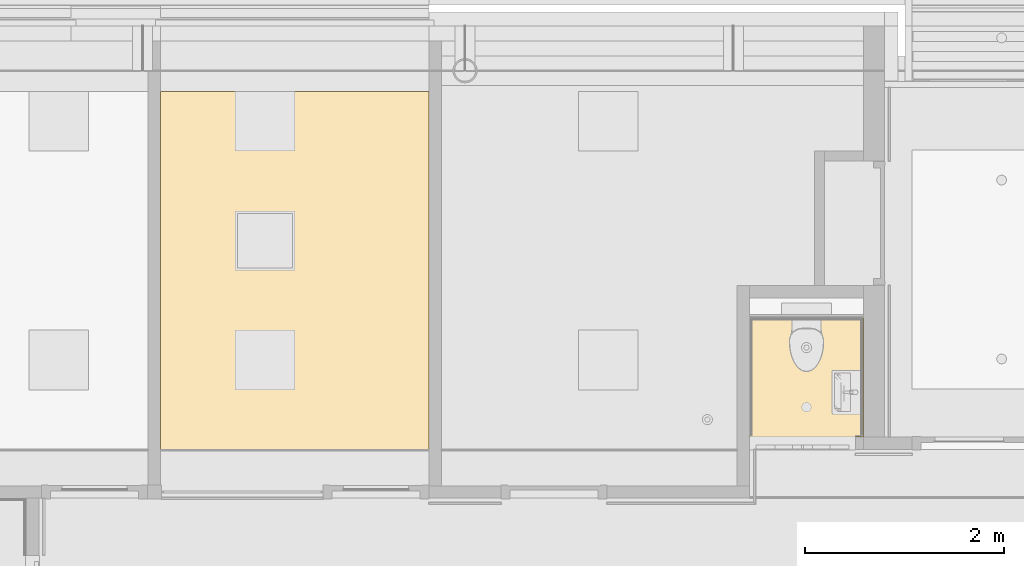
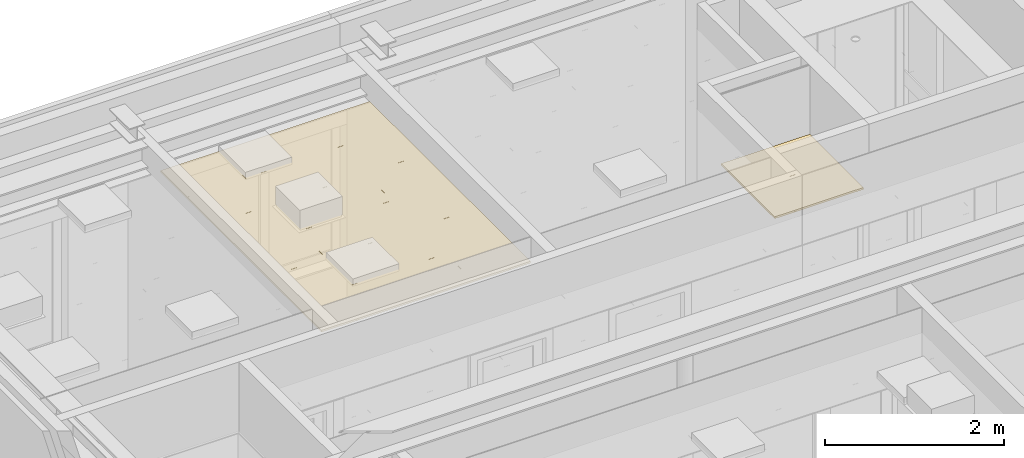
# One storey, part 160 of 347: 2 coverings.
"""IFC2X3 building model written with IfcOpenShell, lengths in millimetres."""

from ifc_helpers import new_model, entity, si_unit, converted_unit, derived_unit, money_unit, direction, frame, origin_with_axes, place, context, subcontext, project, spatial, faceted_brep, type_object, element, save


model = new_model("IFC2X3")

# Units and contexts
model_context = context("Model", 3, precision=0.01, world=origin_with_axes(), true_north=direction((0.0, 1.0)))
plan_context = context("Plan", 3, precision=0.01, world=origin_with_axes(), true_north=direction((0.0, 1.0)))
body_context = subcontext(model_context, "Body", "Model", "MODEL_VIEW")
ifc_project = project(units=[si_unit("LENGTHUNIT", "METRE", prefix="MILLI"), si_unit("AREAUNIT", "SQUARE_METRE"), si_unit("VOLUMEUNIT", "CUBIC_METRE"), converted_unit("PLANEANGLEUNIT", "DEGREE", entity("IfcPlaneAngleMeasure", 0.0174532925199), si_unit("PLANEANGLEUNIT", "RADIAN"), dimensions=[0, 0, 0, 0, 0, 0, 0]), money_unit("EUR"), converted_unit("TIMEUNIT", "Year", entity("IfcTimeMeasure", 31556926.0), si_unit("TIMEUNIT", "SECOND"), dimensions=[0, 0, 1, 0, 0, 0, 0]), si_unit("MASSUNIT", "GRAM", prefix="KILO"), si_unit("THERMODYNAMICTEMPERATUREUNIT", "DEGREE_CELSIUS"), si_unit("LUMINOUSINTENSITYUNIT", "LUMEN"), si_unit("ENERGYUNIT", "JOULE", prefix="MEGA"), derived_unit("THERMALCONDUCTANCEUNIT", [(si_unit("POWERUNIT", "WATT"), 1), (si_unit("LENGTHUNIT", "METRE"), -1), (si_unit("THERMODYNAMICTEMPERATUREUNIT", "KELVIN"), -1)]), derived_unit("SPECIFICHEATCAPACITYUNIT", [(si_unit("ENERGYUNIT", "JOULE"), 1), (si_unit("MASSUNIT", "GRAM", prefix="KILO"), -1), (si_unit("THERMODYNAMICTEMPERATUREUNIT", "KELVIN"), -1)]), derived_unit("MASSDENSITYUNIT", [(si_unit("MASSUNIT", "GRAM", prefix="KILO"), 1), (si_unit("VOLUMEUNIT", "CUBIC_METRE"), -1)])], contexts=[model_context, plan_context])

# Site, building, storey
site_placement = place(None, origin_with_axes())
site = spatial("IfcSite", under=ifc_project, at=site_placement, Name="Site", CompositionType="ELEMENT")
building_placement = place(site_placement, origin_with_axes())
building = spatial("IfcBuilding", under=site, at=building_placement, Name="Naam gebouw", CompositionType="ELEMENT")
storey_placement = place(building_placement, origin_with_axes())
storey = spatial("IfcBuildingStorey", under=building, at=storey_placement, Name="begane grond", CompositionType="ELEMENT", Elevation=0.0)

# Coverings
covering_type = type_object("IfcCoveringType", Name="Ceiling Editor INT_v2.01", PredefinedType="CEILING")
covering_1_placement = place(storey_placement, frame((14650.0, 15015.0, 2600.0), z_axis=(0.0, 0.0, 1.0), x_axis=(1.0, 0.0, 0.0)))
element("IfcCovering", 1, at=covering_1_placement, inside=storey, type_object=covering_type, Name="45 Plafondafwerkingen_77 garderobe", PredefinedType="CEILING", context=body_context, shape_type="Brep", body=[
    faceted_brep([(1145.0, 300.0, 20.0), (1145.0, 599.9, 20.0), (0.1, 599.9, 20.0), (0.1, 0.0999999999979, 20.0), (1145.0, 0.0999999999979, 20.0), (1145.0, 300.0, 0.0), (1145.0, 599.9, 0.0), (0.1, 599.9, 0.0), (0.1, 0.0999999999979, 0.0), (1145.0, 0.0999999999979, 0.0)], [[[0, 1, 2, 3, 4]], [[1, 0, 5, 6]], [[1, 6, 7, 2]], [[2, 7, 8, 3]], [[9, 4, 3, 8]], [[0, 4, 9, 5]], [[5, 9, 8, 7, 6]]]),
    faceted_brep([(1145.0, 900.0, 20.0), (1145.0, 1199.9, 20.0), (0.1, 1199.9, 20.0), (0.1, 600.1, 20.0), (1145.0, 600.1, 20.0), (1145.0, 900.0, 0.0), (1145.0, 1199.9, 0.0), (0.1, 1199.9, 0.0), (0.1, 600.1, 0.0), (1145.0, 600.1, 0.0)], [[[0, 1, 2, 3, 4]], [[1, 0, 5, 6]], [[1, 6, 7, 2]], [[2, 7, 8, 3]], [[9, 4, 3, 8]], [[0, 4, 9, 5]], [[5, 9, 8, 7, 6]]]),
    faceted_brep([(1145.0, 12.5, -5.0), (1145.0, 0.0, -5.0), (858.75, 0.0, -5.0), (572.5, 0.0, -5.0), (286.25, 0.0, -5.0), (0.0, 0.0, -5.0), (0.0, 300.0, -5.0), (0.0, 600.0, -5.0), (0.0, 900.0, -5.0), (0.0, 1200.0, -5.0), (286.25, 1200.0, -5.0), (572.5, 1200.0, -5.0), (858.75, 1200.0, -5.0), (1145.0, 1200.0, -5.0), (1145.0, 1187.5, -5.0), (1145.0, 612.5, -5.0), (1145.0, 600.0, -5.0), (1145.0, 587.5, -5.0), (1120.0, 1175.0, -5.0), (25.0, 1175.0, -5.0), (25.0, 612.5, -5.0), (1120.0, 612.5, -5.0), (1120.0, 25.0, -5.0), (1120.0, 587.5, -5.0), (25.0, 587.5, -5.0), (25.0, 25.0, -5.0), (1145.0, 600.0, 0.0), (1145.0, 587.5, 0.0), (1145.0, 12.5, 0.0), (1145.0, 0.0, 0.0), (858.75, 0.0, 0.0), (572.5, 0.0, 0.0), (286.25, 0.0, 0.0), (0.0, 0.0, 0.0), (0.0, 300.0, 0.0), (0.0, 600.0, 0.0), (0.0, 900.0, 0.0), (0.0, 1200.0, 0.0), (286.25, 1200.0, 0.0), (572.5, 1200.0, 0.0), (858.75, 1200.0, 0.0), (1145.0, 1200.0, 0.0), (1145.0, 1187.5, 0.0), (1145.0, 612.5, 0.0), (1120.0, 1175.0, 0.0), (25.0, 1175.0, 0.0), (25.0, 612.5, 0.0), (1120.0, 612.5, 0.0), (1120.0, 25.0, 0.0), (1120.0, 587.5, 0.0), (25.0, 587.5, 0.0), (25.0, 25.0, 0.0)], [[[0, 1, 2, 3, 4, 5, 6, 7, 8, 9, 10, 11, 12, 13, 14, 15, 16, 17], [18, 19, 20, 21], [22, 23, 24, 25]], [[0, 17, 16, 26, 27, 28, 29, 1]], [[2, 1, 29, 30]], [[3, 2, 30, 31]], [[4, 3, 31, 32]], [[4, 32, 33, 5]], [[6, 5, 33, 34]], [[7, 6, 34, 35]], [[8, 7, 35, 36]], [[9, 8, 36, 37]], [[10, 9, 37, 38]], [[11, 10, 38, 39]], [[12, 11, 39, 40]], [[13, 12, 40, 41]], [[15, 14, 13, 41, 42, 43, 26, 16]], [[18, 44, 45, 19]], [[19, 45, 46, 20]], [[47, 21, 20, 46]], [[47, 44, 18, 21]], [[22, 48, 49, 23]], [[23, 49, 50, 24]], [[24, 50, 51, 25]], [[51, 48, 22, 25]], [[27, 26, 43, 42, 41, 40, 39, 38, 37, 36, 35, 34, 33, 32, 31, 30, 29, 28], [47, 46, 45, 44], [51, 50, 49, 48]]]),
])
covering_2_placement = place(storey_placement, frame((8725.0, 14890.000144, 3200.0), z_axis=(0.0, 0.0, 1.0), x_axis=(1.0, 0.0, 0.0)))
element("IfcCovering", 2, at=covering_2_placement, inside=storey, type_object=covering_type, Name="45 Plafondafwerkingen_77 garderobe", PredefinedType="CEILING", context=body_context, shape_type="Brep", body=[
    faceted_brep([(0.0, 599.9, 0.0), (0.0, 599.9, 20.0), (749.9, 599.9, 20.0), (749.9, 599.9, 0.0), (0.0, 0.100000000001, 0.0), (0.0, 0.100000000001, 20.0), (749.9, 0.100000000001, 20.0), (749.9, 0.100000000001, 0.0)], [[[0, 1, 2, 3]], [[1, 0, 4, 5]], [[1, 5, 6, 2]], [[6, 7, 3, 2]], [[4, 0, 3, 7]], [[5, 4, 7, 6]]]),
    faceted_brep([(0.0, 1199.9, 0.0), (0.0, 1199.9, 20.0), (749.9, 1199.9, 20.0), (749.9, 1199.9, 0.0), (0.0, 900.0, 0.0), (0.0, 900.0, 20.0), (0.0, 600.1, 20.0), (749.9, 600.1, 20.0), (749.9, 600.1, 0.0), (0.0, 600.1, 0.0)], [[[0, 1, 2, 3]], [[1, 0, 4, 5]], [[5, 6, 7, 2, 1]], [[7, 8, 3, 2]], [[4, 0, 3, 8, 9]], [[6, 5, 4, 9]], [[6, 9, 8, 7]]]),
    faceted_brep([(0.0, 1799.9, 0.0), (0.0, 1799.9, 20.0), (749.9, 1799.9, 20.0), (749.9, 1799.9, 0.0), (0.0, 1200.1, 0.0), (0.0, 1200.1, 20.0), (749.9, 1200.1, 20.0), (749.9, 1200.1, 0.0)], [[[0, 1, 2, 3]], [[1, 0, 4, 5]], [[1, 5, 6, 2]], [[6, 7, 3, 2]], [[4, 0, 3, 7]], [[5, 4, 7, 6]]]),
    faceted_brep([(0.0, 2399.9, 0.0), (0.0, 2399.9, 20.0), (749.9, 2399.9, 20.0), (749.9, 2399.9, 0.0), (0.0, 1800.1, 0.0), (0.0, 1800.1, 20.0), (749.9, 1800.1, 20.0), (749.9, 1800.1, 0.0)], [[[0, 1, 2, 3]], [[1, 0, 4, 5]], [[1, 5, 6, 2]], [[6, 7, 3, 2]], [[4, 0, 3, 7]], [[5, 4, 7, 6]]]),
    faceted_brep([(0.0, 2999.9, 0.0), (0.0, 2999.9, 20.0), (749.9, 2999.9, 20.0), (749.9, 2999.9, 0.0), (0.0, 2700.0, 0.0), (0.0, 2700.0, 20.0), (0.0, 2400.1, 20.0), (749.9, 2400.1, 20.0), (749.9, 2400.1, 0.0), (0.0, 2400.1, 0.0)], [[[0, 1, 2, 3]], [[1, 0, 4, 5]], [[5, 6, 7, 2, 1]], [[7, 8, 3, 2]], [[4, 0, 3, 8, 9]], [[6, 5, 4, 9]], [[6, 9, 8, 7]]]),
    faceted_brep([(0.0, 3599.9, 0.0), (0.0, 3599.9, 20.0), (749.9, 3599.9, 20.0), (749.9, 3599.9, 0.0), (0.0, 3000.1, 0.0), (0.0, 3000.1, 20.0), (749.9, 3000.1, 20.0), (749.9, 3000.1, 0.0)], [[[0, 1, 2, 3]], [[1, 0, 4, 5]], [[1, 5, 6, 2]], [[6, 7, 3, 2]], [[4, 0, 3, 7]], [[5, 4, 7, 6]]]),
    faceted_brep([(1949.9, 0.100000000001, 20.0), (1949.9, 0.100000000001, 0.0), (1949.9, 599.9, 0.0), (1949.9, 599.9, 20.0), (750.1, 0.100000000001, 20.0), (750.1, 0.100000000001, 0.0), (750.1, 599.9, 0.0), (750.1, 599.9, 20.0)], [[[0, 1, 2, 3]], [[4, 5, 1, 0]], [[2, 1, 5, 6]], [[3, 2, 6, 7]], [[4, 0, 3, 7]], [[7, 6, 5, 4]]]),
    faceted_brep([(1949.9, 600.1, 20.0), (1949.9, 600.1, 0.0), (1949.9, 1199.9, 0.0), (1949.9, 1199.9, 20.0), (750.1, 600.1, 20.0), (750.1, 600.1, 0.0), (750.1, 1199.9, 0.0), (750.1, 1199.9, 20.0)], [[[0, 1, 2, 3]], [[4, 5, 1, 0]], [[2, 1, 5, 6]], [[3, 2, 6, 7]], [[4, 0, 3, 7]], [[7, 6, 5, 4]]]),
    faceted_brep([(1949.9, 1200.1, 20.0), (1949.9, 1200.1, 0.0), (1949.9, 1799.9, 0.0), (1949.9, 1799.9, 20.0), (750.1, 1200.1, 20.0), (750.1, 1200.1, 0.0), (750.1, 1799.9, 0.0), (750.1, 1799.9, 20.0)], [[[0, 1, 2, 3]], [[4, 5, 1, 0]], [[2, 1, 5, 6]], [[3, 2, 6, 7]], [[4, 0, 3, 7]], [[7, 6, 5, 4]]]),
    faceted_brep([(1949.9, 1800.1, 20.0), (1949.9, 1800.1, 0.0), (1949.9, 2399.9, 0.0), (1949.9, 2399.9, 20.0), (750.1, 1800.1, 20.0), (750.1, 1800.1, 0.0), (750.1, 2399.9, 0.0), (750.1, 2399.9, 20.0)], [[[0, 1, 2, 3]], [[4, 5, 1, 0]], [[2, 1, 5, 6]], [[3, 2, 6, 7]], [[4, 0, 3, 7]], [[7, 6, 5, 4]]]),
    faceted_brep([(1949.9, 2400.1, 20.0), (1949.9, 2400.1, 0.0), (1949.9, 2999.9, 0.0), (1949.9, 2999.9, 20.0), (750.1, 2400.1, 20.0), (750.1, 2400.1, 0.0), (750.1, 2999.9, 0.0), (750.1, 2999.9, 20.0)], [[[0, 1, 2, 3]], [[4, 5, 1, 0]], [[2, 1, 5, 6]], [[3, 2, 6, 7]], [[4, 0, 3, 7]], [[7, 6, 5, 4]]]),
    faceted_brep([(1949.9, 3000.1, 20.0), (1949.9, 3000.1, 0.0), (1949.9, 3599.9, 0.0), (1949.9, 3599.9, 20.0), (750.1, 3000.1, 20.0), (750.1, 3000.1, 0.0), (750.1, 3599.9, 0.0), (750.1, 3599.9, 20.0)], [[[0, 1, 2, 3]], [[4, 5, 1, 0]], [[2, 1, 5, 6]], [[3, 2, 6, 7]], [[4, 0, 3, 7]], [[7, 6, 5, 4]]]),
    faceted_brep([(2700.0, 0.100000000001, 20.0), (2700.0, 599.9, 20.0), (1950.1, 599.9, 20.0), (1950.1, 0.100000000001, 20.0), (2700.0, 0.100000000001, 0.0), (2700.0, 599.9, 0.0), (1950.1, 599.9, 0.0), (1950.1, 0.100000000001, 0.0)], [[[0, 1, 2, 3]], [[1, 0, 4, 5]], [[1, 5, 6, 2]], [[2, 6, 7, 3]], [[4, 0, 3, 7]], [[5, 4, 7, 6]]]),
    faceted_brep([(2700.0, 900.0, 20.0), (2700.0, 1199.9, 20.0), (1950.1, 1199.9, 20.0), (1950.1, 600.1, 20.0), (2700.0, 600.1, 20.0), (2700.0, 900.0, 0.0), (2700.0, 1199.9, 0.0), (1950.1, 1199.9, 0.0), (1950.1, 600.1, 0.0), (2700.0, 600.1, 0.0)], [[[0, 1, 2, 3, 4]], [[1, 0, 5, 6]], [[1, 6, 7, 2]], [[2, 7, 8, 3]], [[9, 4, 3, 8]], [[0, 4, 9, 5]], [[5, 9, 8, 7, 6]]]),
    faceted_brep([(2700.0, 1200.1, 20.0), (2700.0, 1799.9, 20.0), (1950.1, 1799.9, 20.0), (1950.1, 1200.1, 20.0), (2700.0, 1200.1, 0.0), (2700.0, 1799.9, 0.0), (1950.1, 1799.9, 0.0), (1950.1, 1200.1, 0.0)], [[[0, 1, 2, 3]], [[1, 0, 4, 5]], [[1, 5, 6, 2]], [[2, 6, 7, 3]], [[4, 0, 3, 7]], [[5, 4, 7, 6]]]),
    faceted_brep([(2700.0, 1800.1, 20.0), (2700.0, 2399.9, 20.0), (1950.1, 2399.9, 20.0), (1950.1, 1800.1, 20.0), (2700.0, 1800.1, 0.0), (2700.0, 2399.9, 0.0), (1950.1, 2399.9, 0.0), (1950.1, 1800.1, 0.0)], [[[0, 1, 2, 3]], [[1, 0, 4, 5]], [[1, 5, 6, 2]], [[2, 6, 7, 3]], [[4, 0, 3, 7]], [[5, 4, 7, 6]]]),
    faceted_brep([(2700.0, 2700.0, 20.0), (2700.0, 2999.9, 20.0), (1950.1, 2999.9, 20.0), (1950.1, 2400.1, 20.0), (2700.0, 2400.1, 20.0), (2700.0, 2700.0, 0.0), (2700.0, 2999.9, 0.0), (1950.1, 2999.9, 0.0), (1950.1, 2400.1, 0.0), (2700.0, 2400.1, 0.0)], [[[0, 1, 2, 3, 4]], [[1, 0, 5, 6]], [[1, 6, 7, 2]], [[2, 7, 8, 3]], [[9, 4, 3, 8]], [[0, 4, 9, 5]], [[5, 9, 8, 7, 6]]]),
    faceted_brep([(2700.0, 3000.1, 20.0), (2700.0, 3599.9, 20.0), (1950.1, 3599.9, 20.0), (1950.1, 3000.1, 20.0), (2700.0, 3000.1, 0.0), (2700.0, 3599.9, 0.0), (1950.1, 3599.9, 0.0), (1950.1, 3000.1, 0.0)], [[[0, 1, 2, 3]], [[1, 0, 4, 5]], [[1, 5, 6, 2]], [[2, 6, 7, 3]], [[4, 0, 3, 7]], [[5, 4, 7, 6]]]),
    faceted_brep([(737.5, 25.0, -5.0), (737.5, 25.0, 0.0), (737.5, 587.5, 0.0), (737.5, 587.5, -5.0), (25.0, 25.0, -5.0), (25.0, 25.0, 0.0), (2700.0, 1187.5, 0.0), (2700.0, 1212.5, 0.0), (2700.0, 1787.5, 0.0), (2700.0, 1800.0, 0.0), (2700.0, 1812.5, 0.0), (2700.0, 2387.5, 0.0), (2700.0, 2412.5, 0.0), (2700.0, 2987.5, 0.0), (2700.0, 3012.5, 0.0), (2700.0, 3587.5, 0.0), (2700.0, 3600.0, 0.0), (2025.0, 3600.0, 0.0), (1350.0, 3600.0, 0.0), (675.0, 3600.0, 0.0), (0.0, 3600.0, 0.0), (0.0, 3587.5, 0.0), (0.0, 3012.5, 0.0), (0.0, 2987.5, 0.0), (0.0, 2412.5, 0.0), (0.0, 2387.5, 0.0), (0.0, 1812.5, 0.0), (0.0, 1800.0, 0.0), (0.0, 1787.5, 0.0), (0.0, 1212.5, 0.0), (0.0, 1187.5, 0.0), (0.0, 612.5, 0.0), (0.0, 587.5, 0.0), (0.0, 12.5, 0.0), (0.0, 0.0, 0.0), (675.0, 0.0, 0.0), (1350.0, 0.0, 0.0), (2025.0, 0.0, 0.0), (2700.0, 0.0, 0.0), (2700.0, 12.5, 0.0), (2700.0, 587.5, 0.0), (2700.0, 612.5, 0.0), (762.5, 2987.5, 0.0), (1937.5, 2987.5, 0.0), (1937.5, 2412.5, 0.0), (762.5, 2412.5, 0.0), (762.5, 25.0, 0.0), (762.5, 587.5, 0.0), (1937.5, 587.5, 0.0), (1937.5, 25.0, 0.0), (762.5, 1187.5, 0.0), (1937.5, 1187.5, 0.0), (1937.5, 612.5, 0.0), (762.5, 612.5, 0.0), (762.5, 1787.5, 0.0), (1937.5, 1787.5, 0.0), (1937.5, 1212.5, 0.0), (762.5, 1212.5, 0.0), (762.5, 2387.5, 0.0), (1937.5, 2387.5, 0.0), (1937.5, 1812.5, 0.0), (762.5, 1812.5, 0.0), (1937.5, 3575.0, 0.0), (1937.5, 3012.5, 0.0), (762.5, 3012.5, 0.0), (762.5, 3575.0, 0.0), (25.0, 587.5, 0.0), (25.0, 1187.5, 0.0), (737.5, 1187.5, 0.0), (737.5, 612.5, 0.0), (25.0, 612.5, 0.0), (25.0, 1787.5, 0.0), (737.5, 1787.5, 0.0), (737.5, 1212.5, 0.0), (25.0, 1212.5, 0.0), (25.0, 2387.5, 0.0), (737.5, 2387.5, 0.0), (737.5, 1812.5, 0.0), (25.0, 1812.5, 0.0), (737.5, 3575.0, 0.0), (737.5, 3012.5, 0.0), (25.0, 3012.5, 0.0), (25.0, 3575.0, 0.0), (25.0, 2987.5, 0.0), (737.5, 2987.5, 0.0), (737.5, 2412.5, 0.0), (25.0, 2412.5, 0.0), (2675.0, 3575.0, 0.0), (2675.0, 3012.5, 0.0), (1962.5, 3012.5, 0.0), (1962.5, 3575.0, 0.0), (2675.0, 2387.5, 0.0), (2675.0, 1812.5, 0.0), (1962.5, 1812.5, 0.0), (1962.5, 2387.5, 0.0), (2675.0, 2412.5, 0.0), (1962.5, 2412.5, 0.0), (1962.5, 2987.5, 0.0), (2675.0, 2987.5, 0.0), (2675.0, 1787.5, 0.0), (2675.0, 1212.5, 0.0), (1962.5, 1212.5, 0.0), (1962.5, 1787.5, 0.0), (1962.5, 25.0, 0.0), (1962.5, 587.5, 0.0), (2675.0, 587.5, 0.0), (2675.0, 25.0, 0.0), (2675.0, 612.5, 0.0), (1962.5, 612.5, 0.0), (1962.5, 1187.5, 0.0), (2675.0, 1187.5, 0.0), (25.0, 587.5, -5.0), (2700.0, 612.5, -5.0), (2700.0, 587.5, -5.0), (2700.0, 12.5, -5.0), (2700.0, 0.0, -5.0), (2025.0, 0.0, -5.0), (1350.0, 0.0, -5.0), (675.0, 0.0, -5.0), (0.0, 0.0, -5.0), (0.0, 12.5, -5.0), (0.0, 587.5, -5.0), (0.0, 612.5, -5.0), (0.0, 1187.5, -5.0), (0.0, 1212.5, -5.0), (0.0, 1787.5, -5.0), (0.0, 1800.0, -5.0), (0.0, 1812.5, -5.0), (0.0, 2387.5, -5.0), (0.0, 2412.5, -5.0), (0.0, 2987.5, -5.0), (0.0, 3012.5, -5.0), (0.0, 3587.5, -5.0), (0.0, 3600.0, -5.0), (675.0, 3600.0, -5.0), (1350.0, 3600.0, -5.0), (2025.0, 3600.0, -5.0), (2700.0, 3600.0, -5.0), (2700.0, 3587.5, -5.0), (2700.0, 3012.5, -5.0), (2700.0, 2987.5, -5.0), (2700.0, 2412.5, -5.0), (2700.0, 2387.5, -5.0), (2700.0, 1812.5, -5.0), (2700.0, 1800.0, -5.0), (2700.0, 1787.5, -5.0), (2700.0, 1212.5, -5.0), (2700.0, 1187.5, -5.0), (1937.5, 2412.5, -5.0), (1937.5, 2987.5, -5.0), (762.5, 2987.5, -5.0), (762.5, 2412.5, -5.0), (1937.5, 25.0, -5.0), (1937.5, 587.5, -5.0), (762.5, 587.5, -5.0), (762.5, 25.0, -5.0), (1937.5, 612.5, -5.0), (1937.5, 1187.5, -5.0), (762.5, 1187.5, -5.0), (762.5, 612.5, -5.0), (1937.5, 1212.5, -5.0), (1937.5, 1787.5, -5.0), (762.5, 1787.5, -5.0), (762.5, 1212.5, -5.0), (1937.5, 1812.5, -5.0), (1937.5, 2387.5, -5.0), (762.5, 2387.5, -5.0), (762.5, 1812.5, -5.0), (762.5, 3575.0, -5.0), (762.5, 3012.5, -5.0), (1937.5, 3012.5, -5.0), (1937.5, 3575.0, -5.0), (25.0, 1187.5, -5.0), (25.0, 612.5, -5.0), (737.5, 612.5, -5.0), (737.5, 1187.5, -5.0), (25.0, 1787.5, -5.0), (25.0, 1212.5, -5.0), (737.5, 1212.5, -5.0), (737.5, 1787.5, -5.0), (25.0, 2387.5, -5.0), (25.0, 1812.5, -5.0), (737.5, 1812.5, -5.0), (737.5, 2387.5, -5.0), (25.0, 3575.0, -5.0), (25.0, 3012.5, -5.0), (737.5, 3012.5, -5.0), (737.5, 3575.0, -5.0), (25.0, 2987.5, -5.0), (25.0, 2412.5, -5.0), (737.5, 2412.5, -5.0), (737.5, 2987.5, -5.0), (2675.0, 3575.0, -5.0), (1962.5, 3575.0, -5.0), (1962.5, 3012.5, -5.0), (2675.0, 3012.5, -5.0), (2675.0, 2387.5, -5.0), (1962.5, 2387.5, -5.0), (1962.5, 1812.5, -5.0), (2675.0, 1812.5, -5.0), (2675.0, 2987.5, -5.0), (1962.5, 2987.5, -5.0), (1962.5, 2412.5, -5.0), (2675.0, 2412.5, -5.0), (2675.0, 1787.5, -5.0), (1962.5, 1787.5, -5.0), (1962.5, 1212.5, -5.0), (2675.0, 1212.5, -5.0), (2675.0, 25.0, -5.0), (2675.0, 587.5, -5.0), (1962.5, 587.5, -5.0), (1962.5, 25.0, -5.0), (2675.0, 1187.5, -5.0), (1962.5, 1187.5, -5.0), (1962.5, 612.5, -5.0), (2675.0, 612.5, -5.0)], [[[0, 1, 2, 3]], [[1, 0, 4, 5]], [[6, 7, 8, 9, 10, 11, 12, 13, 14, 15, 16, 17, 18, 19, 20, 21, 22, 23, 24, 25, 26, 27, 28, 29, 30, 31, 32, 33, 34, 35, 36, 37, 38, 39, 40, 41], [42, 43, 44, 45], [46, 47, 48, 49], [50, 51, 52, 53], [54, 55, 56, 57], [58, 59, 60, 61], [62, 63, 64, 65], [1, 5, 66, 2], [67, 68, 69, 70], [71, 72, 73, 74], [75, 76, 77, 78], [79, 80, 81, 82], [83, 84, 85, 86], [87, 88, 89, 90], [91, 92, 93, 94], [95, 96, 97, 98], [99, 100, 101, 102], [103, 104, 105, 106], [107, 108, 109, 110]], [[66, 111, 3, 2]], [[112, 113, 114, 115, 116, 117, 118, 119, 120, 121, 122, 123, 124, 125, 126, 127, 128, 129, 130, 131, 132, 133, 134, 135, 136, 137, 138, 139, 140, 141, 142, 143, 144, 145, 146, 147], [148, 149, 150, 151], [152, 153, 154, 155], [156, 157, 158, 159], [160, 161, 162, 163], [164, 165, 166, 167], [168, 169, 170, 171], [0, 3, 111, 4], [172, 173, 174, 175], [176, 177, 178, 179], [180, 181, 182, 183], [184, 185, 186, 187], [188, 189, 190, 191], [192, 193, 194, 195], [196, 197, 198, 199], [200, 201, 202, 203], [204, 205, 206, 207], [208, 209, 210, 211], [212, 213, 214, 215]], [[111, 66, 5, 4]], [[112, 147, 146, 145, 144, 9, 8, 7, 6, 41, 40, 39, 38, 115, 114, 113]], [[141, 140, 139, 138, 137, 16, 15, 14, 13, 12, 11, 10, 9, 144, 143, 142]], [[137, 136, 17, 16]], [[136, 135, 18, 17]], [[135, 134, 19, 18]], [[134, 133, 20, 19]], [[23, 22, 21, 20, 133, 132, 131, 130, 129, 128, 127, 126, 27, 26, 25, 24]], [[28, 27, 126, 125, 124, 123, 122, 121, 120, 119, 34, 33, 32, 31, 30, 29]], [[119, 118, 35, 34]], [[117, 36, 35, 118]], [[116, 37, 36, 117]], [[116, 115, 38, 37]], [[150, 149, 43, 42]], [[44, 43, 149, 148]], [[45, 44, 148, 151]], [[151, 150, 42, 45]], [[46, 155, 154, 47]], [[154, 153, 48, 47]], [[152, 49, 48, 153]], [[46, 49, 152, 155]], [[158, 157, 51, 50]], [[52, 51, 157, 156]], [[53, 52, 156, 159]], [[159, 158, 50, 53]], [[162, 161, 55, 54]], [[56, 55, 161, 160]], [[57, 56, 160, 163]], [[163, 162, 54, 57]], [[166, 165, 59, 58]], [[60, 59, 165, 164]], [[61, 60, 164, 167]], [[167, 166, 58, 61]], [[62, 171, 170, 63]], [[64, 63, 170, 169]], [[168, 65, 64, 169]], [[171, 62, 65, 168]], [[67, 172, 175, 68]], [[69, 68, 175, 174]], [[173, 70, 69, 174]], [[172, 67, 70, 173]], [[71, 176, 179, 72]], [[73, 72, 179, 178]], [[177, 74, 73, 178]], [[176, 71, 74, 177]], [[75, 180, 183, 76]], [[77, 76, 183, 182]], [[181, 78, 77, 182]], [[180, 75, 78, 181]], [[79, 187, 186, 80]], [[185, 81, 80, 186]], [[184, 82, 81, 185]], [[187, 79, 82, 184]], [[83, 188, 191, 84]], [[85, 84, 191, 190]], [[189, 86, 85, 190]], [[188, 83, 86, 189]], [[87, 192, 195, 88]], [[88, 195, 194, 89]], [[193, 90, 89, 194]], [[192, 87, 90, 193]], [[91, 196, 199, 92]], [[92, 199, 198, 93]], [[198, 197, 94, 93]], [[196, 91, 94, 197]], [[95, 203, 202, 96]], [[202, 201, 97, 96]], [[200, 98, 97, 201]], [[95, 98, 200, 203]], [[99, 204, 207, 100]], [[100, 207, 206, 101]], [[206, 205, 102, 101]], [[204, 99, 102, 205]], [[103, 211, 210, 104]], [[209, 105, 104, 210]], [[208, 106, 105, 209]], [[103, 106, 208, 211]], [[107, 215, 214, 108]], [[214, 213, 109, 108]], [[212, 110, 109, 213]], [[107, 110, 212, 215]]]),
])

save(model, "model.ifc")
